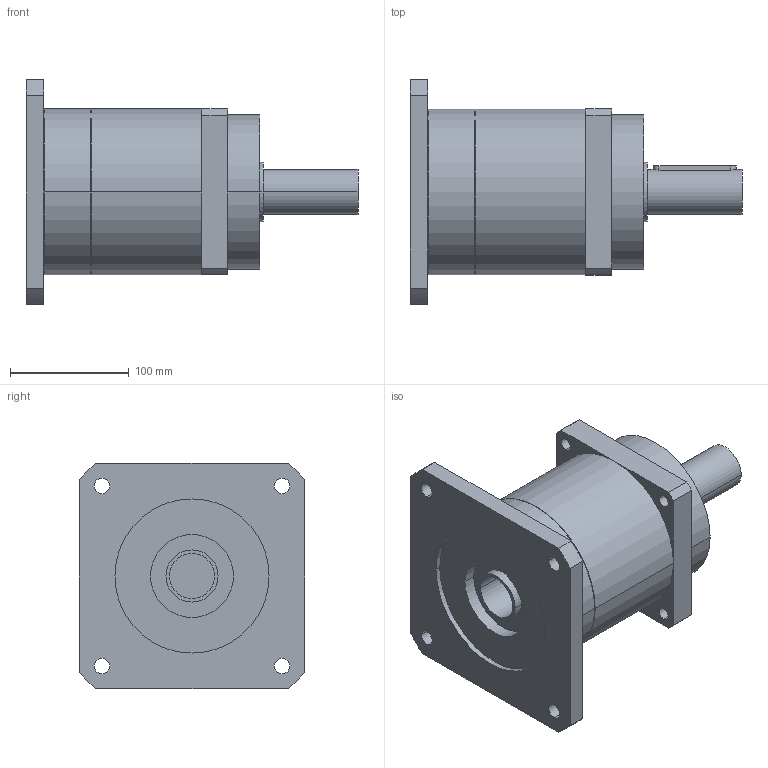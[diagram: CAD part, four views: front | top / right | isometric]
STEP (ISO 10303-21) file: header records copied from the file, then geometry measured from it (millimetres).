
FILE_DESCRIPTION(('CoCreate Modeling STEP Export'),'2;1');
FILE_NAME('GPR150_ig-3-4-5-7_38_B5_38_P13.stp','2014-08-19T16:43:35',(''),(''),'CoCreate Modeling STEP processor for AP214 (Solid Model)','CoCreate Modeling 16.00C 25-Feb-2009 (C) Parametric Technology GmbH','');
FILE_SCHEMA(('AUTOMOTIVE_DESIGN { 1 0 10303 214 1 1 1 1 }'));
Length unit declared in the file: millimetre
Products named in the file (2): GPR150_ig-3-4-5-7_38_B5_38_P13
Assembly tree (1 placements, depth 2):
  GPR150_ig-3-4-5-7_38_B5_38_P13
    GPR150_ig-3-4-5-7_38_B5_38_P13
Bounding box: 280 x 190 x 190 mm (x, y, z)
Volume: 3277651.6 mm3; surface area: 201667.4 mm2
Topology: 1 solids, 1 shells, 78 faces, 214 edges, 146 vertices
Faces by surface type: cylinder 46, plane 26, cone 6
Entity records: 2260 total; most frequent: ORIENTED_EDGE 424, CARTESIAN_POINT 421, DIRECTION 320, EDGE_CURVE 212, VERTEX_POINT 146, AXIS2_PLACEMENT_3D 117, EDGE_LOOP 104, VECTOR 86
